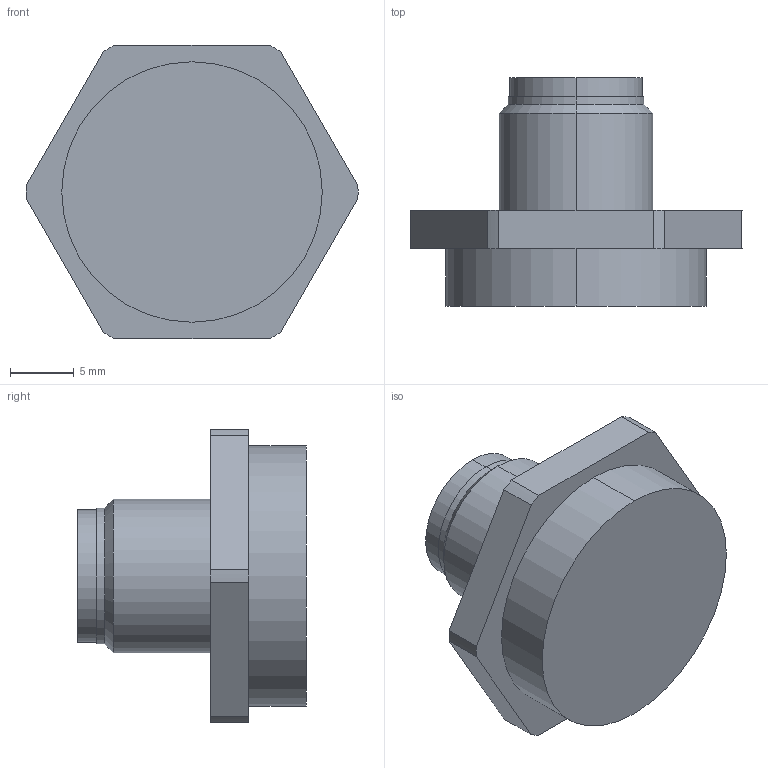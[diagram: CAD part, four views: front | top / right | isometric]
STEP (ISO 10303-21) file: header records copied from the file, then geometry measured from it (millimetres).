
FILE_DESCRIPTION (( 'STEP AP203' ), '1' );
FILE_NAME ('ZF_STEP_VF_CNM12MM-L16_A17.STEP', '2017-10-04T07:49:32', ( 'utente' ), ( 'Microsoft' ), 'SwSTEP 2.0', 'SolidWorks 2014', '' );
FILE_SCHEMA (( 'CONFIG_CONTROL_DESIGN' ));
Length unit declared in the file: millimetre
Products named in the file (1): ZF_STEP_VF_CNM12MM-L16_A17
Bounding box: 26 x 17.9 x 23 mm (x, y, z)
Volume: 3491.3 mm3; surface area: 2045.7 mm2
Topology: 1 solids, 1 shells, 37 faces, 86 edges, 54 vertices
Faces by surface type: cylinder 20, plane 14, cone 2, sphere 1
Entity records: 1136 total; most frequent: DIRECTION 197, CARTESIAN_POINT 187, ORIENTED_EDGE 170, EDGE_CURVE 85, AXIS2_PLACEMENT_3D 76, VERTEX_POINT 54, LINE 45, VECTOR 45
